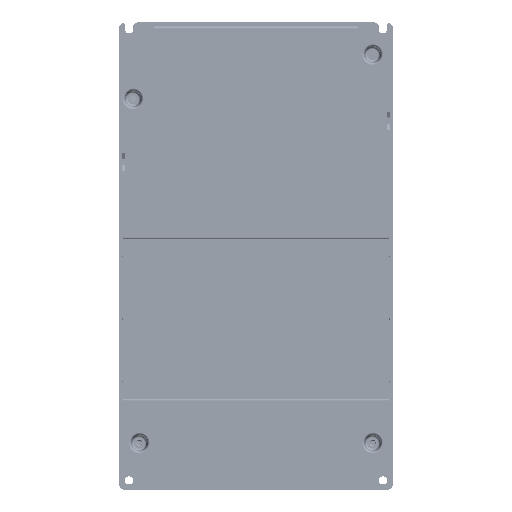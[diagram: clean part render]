
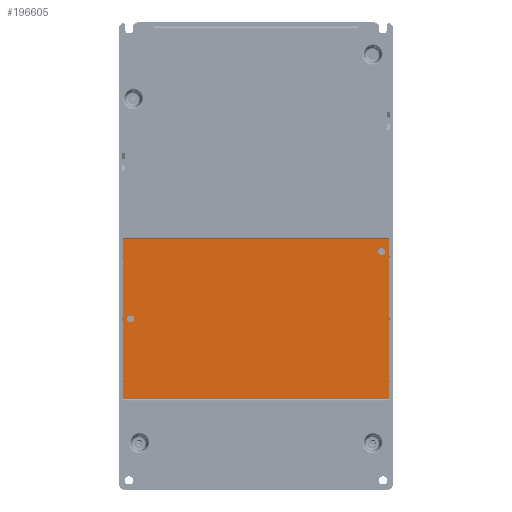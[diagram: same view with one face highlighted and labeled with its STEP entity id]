
A CAD part, front view. The second image highlights one B-rep face of the part: STEP entity #196605.
In plain terms, the highlighted planar face has unit normal (0, -1, 0) as drawn and (0, 0, 1) by its records, which use the part's own axes.
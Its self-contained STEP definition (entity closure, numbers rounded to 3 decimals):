
#193770=DIRECTION('',(0.,1.,0.));
#193771=VECTOR('',#193770,116.);
#193772=CARTESIAN_POINT('',(-97.2,33.3,-5.3));
#193773=LINE('',#193772,#193771);
#193774=DIRECTION('',(1.,0.,0.));
#193775=VECTOR('',#193774,194.4);
#193776=CARTESIAN_POINT('',(-97.2,149.3,-5.3));
#193777=LINE('',#193776,#193775);
#193778=CARTESIAN_POINT('',(-91.4,91.3,-5.3));
#193779=DIRECTION('',(0.,0.,1.));
#193780=DIRECTION('',(0.,1.,0.));
#193781=AXIS2_PLACEMENT_3D('',#193778,#193779,#193780);
#193783=CARTESIAN_POINT('',(-91.4,91.3,-5.3));
#193784=DIRECTION('',(0.,0.,1.));
#193785=DIRECTION('',(0.,-1.,0.));
#193786=AXIS2_PLACEMENT_3D('',#193783,#193784,#193785);
#193788=CARTESIAN_POINT('',(91.5,140.3,-5.3));
#193789=DIRECTION('',(0.,0.,1.));
#193790=DIRECTION('',(-1.,0.,0.));
#193791=AXIS2_PLACEMENT_3D('',#193788,#193789,#193790);
#193793=CARTESIAN_POINT('',(91.5,140.3,-5.3));
#193794=DIRECTION('',(0.,0.,1.));
#193795=DIRECTION('',(1.,0.,0.));
#193796=AXIS2_PLACEMENT_3D('',#193793,#193794,#193795);
#193798=DIRECTION('',(1.,0.,0.));
#193799=VECTOR('',#193798,194.4);
#193800=CARTESIAN_POINT('',(-97.2,33.3,-5.3));
#193801=LINE('',#193800,#193799);
#193823=DIRECTION('',(0.,1.,0.));
#193824=VECTOR('',#193823,116.);
#193825=CARTESIAN_POINT('',(97.2,33.3,-5.3));
#193826=LINE('',#193825,#193824);
#195966=CARTESIAN_POINT('',(-97.2,33.3,-5.3));
#195967=CARTESIAN_POINT('',(97.2,33.3,-5.3));
#195968=VERTEX_POINT('',#195966);
#195969=VERTEX_POINT('',#195967);
#195970=CARTESIAN_POINT('',(-97.2,149.3,-5.3));
#195971=VERTEX_POINT('',#195970);
#195972=CARTESIAN_POINT('',(97.2,149.3,-5.3));
#195973=VERTEX_POINT('',#195972);
#195974=CARTESIAN_POINT('',(-91.4,93.8,-5.3));
#195975=CARTESIAN_POINT('',(-91.4,88.8,-5.3));
#195976=VERTEX_POINT('',#195974);
#195977=VERTEX_POINT('',#195975);
#195978=CARTESIAN_POINT('',(89.,140.3,-5.3));
#195979=CARTESIAN_POINT('',(94.,140.3,-5.3));
#195980=VERTEX_POINT('',#195978);
#195981=VERTEX_POINT('',#195979);
#196578=CARTESIAN_POINT('',(100.,31.8,-5.3));
#196579=DIRECTION('',(0.,0.,1.));
#196580=DIRECTION('',(1.,0.,0.));
#196581=AXIS2_PLACEMENT_3D('',#196578,#196579,#196580);
#196582=PLANE('',#196581);
#196584=ORIENTED_EDGE('',*,*,#196583,.F.);
#196586=ORIENTED_EDGE('',*,*,#196585,.T.);
#196588=ORIENTED_EDGE('',*,*,#196587,.T.);
#196590=ORIENTED_EDGE('',*,*,#196589,.F.);
#196591=EDGE_LOOP('',(#196584,#196586,#196588,#196590));
#196592=FACE_OUTER_BOUND('',#196591,.F.);
#196594=ORIENTED_EDGE('',*,*,#196593,.T.);
#196596=ORIENTED_EDGE('',*,*,#196595,.T.);
#196597=EDGE_LOOP('',(#196594,#196596));
#196598=FACE_BOUND('',#196597,.F.);
#196600=ORIENTED_EDGE('',*,*,#196599,.T.);
#196602=ORIENTED_EDGE('',*,*,#196601,.T.);
#196603=EDGE_LOOP('',(#196600,#196602));
#196604=FACE_BOUND('',#196603,.F.);
#196605=ADVANCED_FACE('',(#196592,#196598,#196604),#196582,.T.);
#193782=CIRCLE('',#193781,2.5);
#193787=CIRCLE('',#193786,2.5);
#193792=CIRCLE('',#193791,2.5);
#193797=CIRCLE('',#193796,2.5);
#196583=EDGE_CURVE('',#195968,#195969,#193801,.T.);
#196585=EDGE_CURVE('',#195968,#195971,#193773,.T.);
#196587=EDGE_CURVE('',#195971,#195973,#193777,.T.);
#196589=EDGE_CURVE('',#195969,#195973,#193826,.T.);
#196593=EDGE_CURVE('',#195976,#195977,#193782,.T.);
#196595=EDGE_CURVE('',#195977,#195976,#193787,.T.);
#196599=EDGE_CURVE('',#195980,#195981,#193792,.T.);
#196601=EDGE_CURVE('',#195981,#195980,#193797,.T.);
